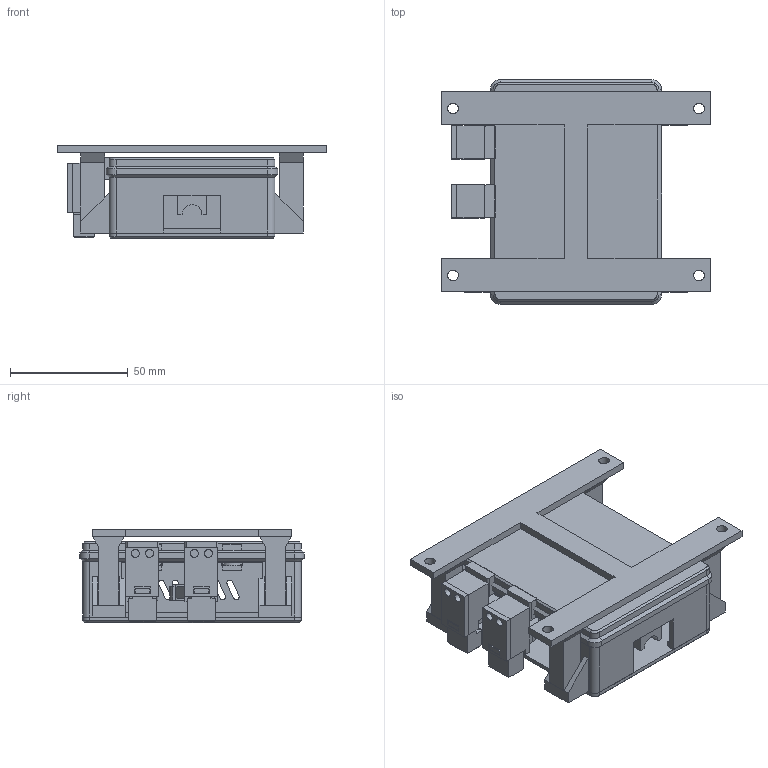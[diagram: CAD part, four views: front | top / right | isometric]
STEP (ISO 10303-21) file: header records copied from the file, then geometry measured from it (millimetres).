
FILE_DESCRIPTION(('SolidCraft model'),'2;1');
FILE_NAME('button_guide_clearance-low-native.step','',(''),(''),'SolidCraft','SolidCraft','');
FILE_SCHEMA(('AP242_MANAGED_MODEL_BASED_3D_ENGINEERING_MIM_LF { 1 0 10303 442 1 1 4 }'));
Length unit declared in the file: millimetre
Products named in the file (1): button_guide_clearance-low-native
Bounding box: 114.3 x 95.2 x 39.6 mm (x, y, z)
Volume: 95857.1 mm3; surface area: 78910.4 mm2
Topology: 26 solids, 26 shells, 690 faces, 1831 edges, 1234 vertices
Faces by surface type: plane 546, cylinder 124, cone 16, bspline 4
Full cylindrical faces by diameter (mm): 3.4 x22, 4 x19, 4.5 x4
Entity records: 17569 total; most frequent: CARTESIAN_POINT 3803, ORIENTED_EDGE 3662, EDGE_CURVE 1831, LINE 1433, VERTEX_POINT 1234, DIRECTION 952, VECTOR 889, EDGE_LOOP 829
